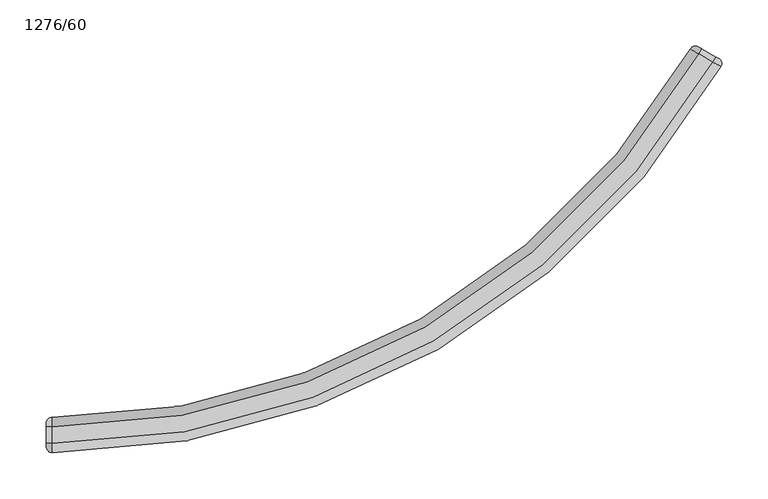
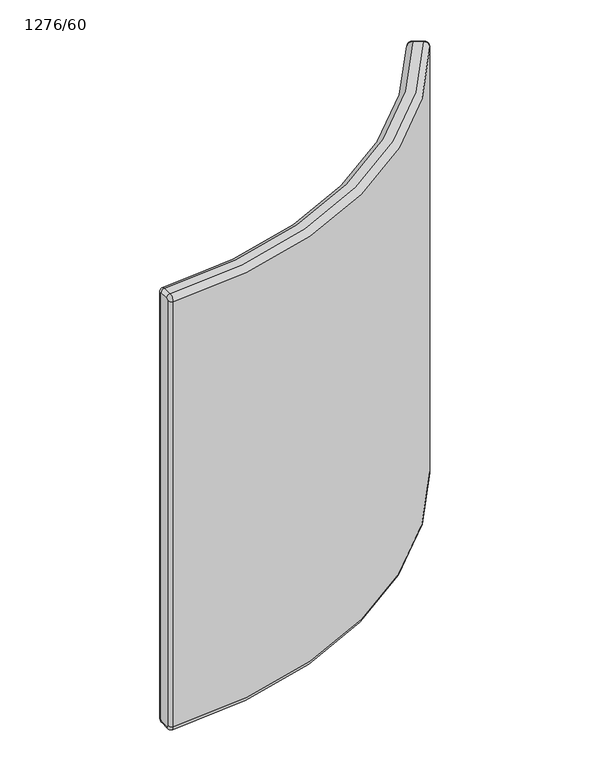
"""IFC4 building model written with IfcOpenShell, lengths in millimetres: furniture geometry, Laguna-Panel-Curve_Outside-ERG : 1276/60."""

from ifc_helpers import new_model, si_unit, point, frame, origin, place, context, project, spatial, polyline, circle_curve, ellipse_curve, trimmed, source, transform, mapped, element, save
from ifc_brep_helpers import plane_surface, cylinder_surface, revolved_surface, advanced_brep


def furniture_1276_60_846af10f(model_context):
    return source(origin(), model_context, "Body", "AdvancedBrep", [
        advanced_brep(
        [(-4700.4237656, 996.8738467, 1056.64), (-3978.083516, 1414.0040527, 1056.64), (-3986.8832502, 1419.0824655, 1066.8), (-4700.4237656, 1007.0338467, 1066.8), (-4700.4237656, 996.8738467, 213.3600166), (-3978.083516, 1414.0040527, 213.36), (-4700.4237656, 1007.0338467, 203.2), (-3986.8832502, 1419.0824655, 203.2), (-4700.4237656, 1024.8138302, 203.2), (-4002.2827853, 1427.9696879, 203.2), (-4700.4237656, 1034.9738467, 213.36), (-4011.0825195, 1433.0481007, 213.36), (-4700.4237656, 1034.9738467, 1056.6399835), (-4011.0825195, 1433.0481007, 1056.64), (-4700.4237656, 1024.8138467, 1066.8), (-4002.2827853, 1427.9696879, 1066.8), (-4706.7737656, 1028.6238467, 213.36), (-4706.7737656, 1024.8138467, 209.55), (-4706.7737656, 1007.0338467, 209.55), (-4706.7737656, 1003.2238467, 213.36), (-4706.7737656, 1003.2238467, 1056.64), (-4706.7737656, 1007.0338467, 1060.45), (-4706.7737656, 1024.8138467, 1060.45), (-4706.7737656, 1028.6238467, 1056.64), (-4002.4086776, 1435.3739266, 1056.64), (-3999.1087773, 1433.4695218, 1060.45), (-3983.7092423, 1424.5822995, 1060.45), (-3980.4093419, 1422.6778947, 1056.64), (-3980.4093419, 1422.6778947, 213.36), (-3983.7092423, 1424.5822995, 209.55), (-3999.1087773, 1433.4695218, 209.55), (-4002.4086776, 1435.3739266, 213.36)],
        [
            (0, 1, circle_curve(frame((-4700.4237656, 1830.8736805, 1056.64), z_axis=(0.0, 0.0, 1.0), x_axis=(0.8661155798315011, -0.49984377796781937, 0.0)), 833.9998338)),
            (1, 2, circle_curve(frame((-3986.8832502, 1419.0824655, 1056.64), z_axis=(-0.49984377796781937, -0.8661155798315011, 0.0), x_axis=(0.8661155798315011, -0.49984377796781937, 0.0)), 10.16)),
            (2, 3, circle_curve(frame((-4700.4237656, 1830.8736805, 1066.8), z_axis=(0.0, 0.0, -1.0), x_axis=(0.8661155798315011, -0.49984377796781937, 0.0)), 823.8398338)),
            (3, 0, circle_curve(frame((-4700.4237656, 1007.0338467, 1056.64), z_axis=(1.0, 0.0, 0.0), x_axis=(0.0, -1.0, 0.0)), 10.16)),
            (0, 4),
            (4, 5, circle_curve(frame((-4700.4237656, 1830.8736805, 213.36), z_axis=(0.0, 0.0, 1.0), x_axis=(0.8661155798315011, -0.49984377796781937, 0.0)), 833.9998338)),
            (5, 1),
            (4, 6, circle_curve(frame((-4700.4237656, 1007.0338467, 213.36), z_axis=(1.0, 0.0, 0.0), x_axis=(0.0, -1.0, 0.0)), 10.16)),
            (6, 7, circle_curve(frame((-4700.4237656, 1830.8736805, 203.2), z_axis=(0.0, 0.0, 1.0), x_axis=(0.8661155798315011, -0.49984377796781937, 0.0)), 823.8398338)),
            (7, 5, circle_curve(frame((-3986.8832502, 1419.0824655, 213.36), z_axis=(-0.49984377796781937, -0.8661155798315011, 0.0), x_axis=(0.8661155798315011, -0.49984377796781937, 0.0)), 10.16)),
            (6, 8),
            (8, 9, circle_curve(frame((-4700.4237656, 1830.8736805, 203.2), z_axis=(0.0, 0.0, 1.0), x_axis=(0.8661155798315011, -0.49984377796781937, 0.0)), 806.0598338)),
            (9, 7),
            (8, 10, circle_curve(frame((-4700.4237656, 1024.8138467, 213.36), z_axis=(1.0, 0.0, 0.0), x_axis=(0.0, -1.0, 0.0)), 10.16)),
            (10, 11, circle_curve(frame((-4700.4237656, 1830.8736805, 213.36), z_axis=(0.0, 0.0, 1.0), x_axis=(0.8661155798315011, -0.49984377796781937, 0.0)), 795.8998338)),
            (11, 9, circle_curve(frame((-4002.2827853, 1427.9696879, 213.36), z_axis=(-0.49984377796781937, -0.8661155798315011, 0.0), x_axis=(0.8661155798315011, -0.49984377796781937, 0.0)), 10.16)),
            (10, 12),
            (12, 13, circle_curve(frame((-4700.4237656, 1830.8736805, 1056.64), z_axis=(0.0, 0.0, 1.0), x_axis=(0.8661155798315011, -0.49984377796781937, 0.0)), 795.8998338)),
            (13, 11),
            (12, 14, circle_curve(frame((-4700.4237656, 1024.8138467, 1056.64), z_axis=(1.0, 0.0, 0.0), x_axis=(0.0, -1.0, 0.0)), 10.16)),
            (14, 15, circle_curve(frame((-4700.4237656, 1830.8736805, 1066.8), z_axis=(0.0, 0.0, 1.0), x_axis=(0.8661155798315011, -0.49984377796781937, 0.0)), 806.0598338)),
            (15, 13, circle_curve(frame((-4002.2827853, 1427.9696879, 1056.64), z_axis=(-0.49984377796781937, -0.8661155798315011, 0.0), x_axis=(0.8661155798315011, -0.49984377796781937, 0.0)), 10.16)),
            (2, 15),
            (14, 3),
            (16, 10, circle_curve(frame((-4700.4237656, 1028.6238467, 213.36), z_axis=(0.0, 0.0, -1.0), x_axis=(-1.0, 0.0, 0.0)), 6.35)),
            (8, 17, circle_curve(frame((-4700.4237656, 1024.8138467, 209.55), z_axis=(0.0, 1.0, 0.0), x_axis=(-1.0, 0.0, 0.0)), 6.35)),
            (17, 16, circle_curve(frame((-4706.7737656, 1024.8138467, 213.36), z_axis=(1.0, 0.0, 0.0), x_axis=(0.0, 1.0, 0.0)), 3.81)),
            (6, 18, circle_curve(frame((-4700.4237656, 1007.0338467, 209.55), z_axis=(0.0, 1.0, 0.0), x_axis=(-1.0, 0.0, 0.0)), 6.35)),
            (18, 17),
            (4, 19, circle_curve(frame((-4700.4237656, 1003.2238467, 213.36), z_axis=(0.0, 0.0, -1.0), x_axis=(-1.0, 0.0, 0.0)), 6.35)),
            (19, 18, circle_curve(frame((-4706.7737656, 1007.0338467, 213.36), z_axis=(1.0, 0.0, 0.0), x_axis=(0.0, 0.0, -1.0)), 3.81)),
            (0, 20, circle_curve(frame((-4700.4237656, 1003.2238467, 1056.64), z_axis=(0.0, 0.0, -1.0), x_axis=(-1.0, 0.0, 0.0)), 6.35)),
            (20, 19),
            (3, 21, circle_curve(frame((-4700.4237656, 1007.0338467, 1060.45), z_axis=(0.0, -1.0, 0.0), x_axis=(-1.0, 0.0, 0.0)), 6.35)),
            (21, 20, circle_curve(frame((-4706.7737656, 1007.0338467, 1056.64), z_axis=(1.0, 0.0, 0.0), x_axis=(0.0, -1.0, 0.0)), 3.81)),
            (14, 22, circle_curve(frame((-4700.4237656, 1024.8138467, 1060.45), z_axis=(0.0, -1.0, 0.0), x_axis=(-1.0, 0.0, 0.0)), 6.35)),
            (22, 21),
            (12, 23, circle_curve(frame((-4700.4237656, 1028.6238467, 1056.64), z_axis=(0.0, 0.0, 1.0), x_axis=(-1.0, 0.0, 0.0)), 6.35)),
            (23, 22, circle_curve(frame((-4706.7737656, 1024.8138467, 1056.64), z_axis=(1.0, 0.0, 0.0), x_axis=(0.0, 0.0, 1.0)), 3.81)),
            (16, 23),
            (24, 13, circle_curve(frame((-4005.5826856, 1429.8740927, 1056.64), z_axis=(0.0, 0.0, 1.0), x_axis=(0.8661155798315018, -0.49984377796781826, 0.0)), 6.35)),
            (15, 25, circle_curve(frame((-4002.2827853, 1427.9696879, 1060.45), z_axis=(-0.8661155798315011, 0.4998437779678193, 0.0), x_axis=(0.0, 0.0, -1.0)), 6.35)),
            (25, 24, circle_curve(frame((-3999.1087773, 1433.4695218, 1056.64), z_axis=(-0.49984377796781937, -0.8661155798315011, 0.0), x_axis=(-0.8661155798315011, 0.49984377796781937, 0.0)), 3.81)),
            (2, 26, circle_curve(frame((-3986.8832502, 1419.0824655, 1060.45), z_axis=(-0.8661155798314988, 0.4998437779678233, 0.0), x_axis=(0.0, 0.0, -1.0)), 6.35)),
            (26, 25),
            (1, 27, circle_curve(frame((-3983.5833499, 1417.1780607, 1056.64), z_axis=(0.0, 0.0, 1.0), x_axis=(-0.8661155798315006, 0.4998437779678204, 0.0)), 6.35)),
            (27, 26, circle_curve(frame((-3983.7092423, 1424.5822995, 1056.64), z_axis=(-0.49984377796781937, -0.8661155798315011, 0.0), x_axis=(0.0, 0.0, 1.0)), 3.81)),
            (5, 28, circle_curve(frame((-3983.5833499, 1417.1780607, 213.36), z_axis=(0.0, 0.0, 1.0), x_axis=(-0.8661155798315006, 0.4998437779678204, 0.0)), 6.35)),
            (28, 27),
            (7, 29, circle_curve(frame((-3986.8832502, 1419.0824655, 209.55), z_axis=(0.8661155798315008, -0.4998437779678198, 0.0), x_axis=(0.0, 0.0, 1.0)), 6.35)),
            (29, 28, circle_curve(frame((-3983.7092423, 1424.5822995, 213.36), z_axis=(-0.49984377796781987, -0.8661155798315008, 0.0), x_axis=(0.8661155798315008, -0.49984377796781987, 0.0)), 3.81)),
            (9, 30, circle_curve(frame((-4002.2827853, 1427.9696879, 209.55), z_axis=(0.8661155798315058, -0.4998437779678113, 0.0), x_axis=(0.0, 0.0, 1.0)), 6.35)),
            (30, 29),
            (11, 31, circle_curve(frame((-4005.5826856, 1429.8740927, 213.36), z_axis=(0.0, 0.0, -1.0), x_axis=(0.8661155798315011, -0.49984377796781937, 0.0)), 6.35)),
            (31, 30, circle_curve(frame((-3999.1087773, 1433.4695218, 213.36), z_axis=(-0.49984377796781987, -0.8661155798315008, 0.0), x_axis=(0.0, 0.0, -1.0)), 3.81)),
            (24, 31),
        ],
        [
            revolved_surface(trimmed(ellipse_curve(frame((-3986.8832502, 1419.0824655, 1056.64), z_axis=(0.49984377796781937, 0.8661155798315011, 0.0), x_axis=(0.8661155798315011, -0.49984377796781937, 0.0)), 10.16, 10.16), [point((-3986.8832502, 1419.0824655, 1066.8))], [point((-3978.083516, 1414.0040527, 1056.64))], True, "CARTESIAN"), (-4700.4237656, 1830.8736805, 0.0), (0.0, 0.0, -1.0)),
            cylinder_surface(frame((-4700.4237656, 1830.8736805, 0.0), z_axis=(0.0, 0.0, -1.0), x_axis=(0.8661155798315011, -0.49984377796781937, 0.0)), 833.9998338),
            revolved_surface(trimmed(ellipse_curve(frame((-3986.8832502, 1419.0824655, 213.36), z_axis=(0.49984377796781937, 0.8661155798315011, 0.0), x_axis=(0.8661155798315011, -0.49984377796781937, 0.0)), 10.16, 10.16), [point((-3978.083516, 1414.0040527, 213.36))], [point((-3986.8832502, 1419.0824655, 203.2))], True, "CARTESIAN"), (-4700.4237656, 1830.8736805, 0.0), (0.0, 0.0, -1.0)),
            plane_surface(frame((-4700.4237656, 1830.8736805, 203.2), z_axis=(0.0, 0.0, -1.0), x_axis=(0.8661155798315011, -0.49984377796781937, 0.0))),
            revolved_surface(trimmed(ellipse_curve(frame((-4002.2827853, 1427.9696879, 213.36), z_axis=(0.49984377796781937, 0.8661155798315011, 0.0), x_axis=(0.8661155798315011, -0.49984377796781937, 0.0)), 10.16, 10.16), [point((-4002.2827853, 1427.9696879, 203.2))], [point((-4011.0825195, 1433.0481007, 213.36))], True, "CARTESIAN"), (-4700.4237656, 1830.8736805, 0.0), (0.0, 0.0, -1.0)),
            revolved_surface(polyline([(-4011.082519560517, 1433.0481006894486, 213.36), (-4011.082519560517, 1433.0481006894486, 1056.64)]), (-4700.4237656, 1830.8736805, 0.0), (0.0, 0.0, -1.0)),
            revolved_surface(trimmed(ellipse_curve(frame((-4002.2827853, 1427.9696879, 1056.64), z_axis=(0.49984377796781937, 0.8661155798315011, 0.0), x_axis=(0.8661155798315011, -0.49984377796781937, 0.0)), 10.16, 10.16), [point((-4011.0825195, 1433.0481007, 1056.64))], [point((-4002.2827853, 1427.9696879, 1066.8))], True, "CARTESIAN"), (-4700.4237656, 1830.8736805, 0.0), (0.0, 0.0, -1.0)),
            plane_surface(frame((-4700.4237656, 1830.8736805, 1066.8), z_axis=(0.0, 0.0, 1.0), x_axis=(0.8661155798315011, -0.49984377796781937, 0.0))),
            revolved_surface(trimmed(ellipse_curve(frame((-4700.4237656, 1028.6238467, 213.36), z_axis=(0.0, 0.0, 1.0), x_axis=(-1.0, 0.0, 0.0)), 6.35, 6.35), [point((-4700.4237656, 1034.9738467, 213.36))], [point((-4706.7737656, 1028.6238467, 213.36))], True, "CARTESIAN"), (-4700.4237656, 1024.8138467, 213.36), (-1.0, 0.0, 0.0)),
            cylinder_surface(frame((-4700.4237656, 1024.8138467, 209.55), z_axis=(0.0, 1.0, 0.0), x_axis=(-1.0, 0.0, 0.0)), 6.35),
            revolved_surface(trimmed(ellipse_curve(frame((-4700.4237656, 1007.0338467, 209.55), z_axis=(0.0, 1.0, 0.0), x_axis=(-1.0, 0.0, 0.0)), 6.35, 6.35), [point((-4700.4237656, 1007.0338467, 203.2))], [point((-4706.7737656, 1007.0338467, 209.55))], True, "CARTESIAN"), (-4700.4237656, 1007.0338467, 213.36), (-1.0, 0.0, 0.0)),
            cylinder_surface(frame((-4700.4237656, 1003.2238467, 213.36), z_axis=(0.0, 0.0, -1.0), x_axis=(-1.0, 0.0, 0.0)), 6.35),
            revolved_surface(trimmed(ellipse_curve(frame((-4700.4237656, 1003.2238467, 1056.64), z_axis=(0.0, 0.0, -1.0), x_axis=(-1.0, 0.0, 0.0)), 6.35, 6.35), [point((-4700.4237656, 996.8738467, 1056.64))], [point((-4706.7737656, 1003.2238467, 1056.64))], True, "CARTESIAN"), (-4700.4237656, 1007.0338467, 1056.64), (-1.0, 0.0, 0.0)),
            cylinder_surface(frame((-4700.4237656, 1007.0338467, 1060.45), z_axis=(0.0, -1.0, 0.0), x_axis=(-1.0, 0.0, 0.0)), 6.35),
            revolved_surface(trimmed(ellipse_curve(frame((-4700.4237656, 1024.8138467, 1060.45), z_axis=(0.0, -1.0, 0.0), x_axis=(-1.0, 0.0, 0.0)), 6.35, 6.35), [point((-4700.4237656, 1024.8138467, 1066.8))], [point((-4706.7737656, 1024.8138467, 1060.45))], True, "CARTESIAN"), (-4700.4237656, 1024.8138467, 1056.64), (-1.0, 0.0, 0.0)),
            cylinder_surface(frame((-4700.4237656, 1028.6238467, 1056.64), z_axis=(0.0, 0.0, 1.0), x_axis=(-1.0, 0.0, 0.0)), 6.35),
            plane_surface(frame((-4706.7737656, 1028.6238467, 213.36), z_axis=(-1.0, 0.0, 0.0), x_axis=(0.0, 0.0, -1.0))),
            revolved_surface(trimmed(ellipse_curve(frame((-4005.5826856, 1429.8740927, 1056.64), z_axis=(0.0, 0.0, -1.0), x_axis=(0.8661155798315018, -0.49984377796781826, 0.0)), 6.35, 6.35), [point((-4011.0825195, 1433.0481007, 1056.64))], [point((-4002.4086776, 1435.3739266, 1056.64))], True, "CARTESIAN"), (-4002.2827853, 1427.9696879, 1056.64), (0.49984377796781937, 0.8661155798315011, 0.0)),
            cylinder_surface(frame((-4002.2827853, 1427.9696879, 1060.45), z_axis=(-0.8661155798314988, 0.4998437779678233, 0.0), x_axis=(0.0, 0.0, -1.0)), 6.35),
            revolved_surface(trimmed(ellipse_curve(frame((-3986.8832502, 1419.0824655, 1060.45), z_axis=(-0.8661155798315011, 0.4998437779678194, 0.0), x_axis=(0.0, 0.0, -1.0)), 6.35, 6.35), [point((-3986.8832502, 1419.0824655, 1066.8))], [point((-3983.7092423, 1424.5822995, 1060.45))], True, "CARTESIAN"), (-3986.8832502, 1419.0824655, 1056.64), (0.49984377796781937, 0.8661155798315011, 0.0)),
            cylinder_surface(frame((-3983.5833499, 1417.1780607, 1056.64), z_axis=(0.0, 0.0, 1.0), x_axis=(-0.8661155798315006, 0.4998437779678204, 0.0)), 6.35),
            revolved_surface(trimmed(ellipse_curve(frame((-3983.5833499, 1417.1780607, 213.36), z_axis=(0.0, 0.0, 1.0), x_axis=(-0.8661155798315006, 0.4998437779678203, 0.0)), 6.35, 6.35), [point((-3978.083516, 1414.0040527, 213.36))], [point((-3980.4093419, 1422.6778947, 213.36))], True, "CARTESIAN"), (-3986.8832502, 1419.0824655, 213.36), (0.49984377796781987, 0.8661155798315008, 0.0)),
            cylinder_surface(frame((-3986.8832502, 1419.0824655, 209.55), z_axis=(0.8661155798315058, -0.4998437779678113, 0.0), x_axis=(0.0, 0.0, 1.0)), 6.35),
            revolved_surface(trimmed(ellipse_curve(frame((-4002.2827853, 1427.9696879, 209.55), z_axis=(0.8661155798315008, -0.4998437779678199, 0.0), x_axis=(0.0, 0.0, 1.0)), 6.35, 6.35), [point((-4002.2827853, 1427.9696879, 203.2))], [point((-3999.1087773, 1433.4695218, 209.55))], True, "CARTESIAN"), (-4002.2827853, 1427.9696879, 213.36), (0.49984377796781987, 0.8661155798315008, 0.0)),
            cylinder_surface(frame((-4005.5826856, 1429.8740927, 213.36), z_axis=(0.0, 0.0, -1.0000000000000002), x_axis=(0.8661155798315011, -0.49984377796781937, 0.0)), 6.35),
            plane_surface(frame((-3980.4093419, 1422.6778947, 213.36), z_axis=(0.49984377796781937, 0.8661155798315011, 0.0), x_axis=(0.0, 0.0, -1.0))),
        ],
        [
            (0, [[1, 2, 3, 4]]),
            (1, [[-1, 5, 6, 7]]),
            (2, [[-6, 8, 9, 10]]),
            (3, [[-9, 11, 12, 13]]),
            (4, [[-12, 14, 15, 16]]),
            (5, [[-15, 17, 18, 19]]),
            (6, [[-18, 20, 21, 22]]),
            (7, [[-3, 23, -21, 24]]),
            (8, [[25, -14, 26, 27]]),
            (9, [[-26, -11, 28, 29]]),
            (10, [[-28, -8, 30, 31]]),
            (11, [[-30, -5, 32, 33]]),
            (12, [[-32, -4, 34, 35]]),
            (13, [[-34, -24, 36, 37]]),
            (14, [[-36, -20, 38, 39]]),
            (15, [[-25, 40, -38, -17]]),
            (16, [[-27, -29, -31, -33, -35, -37, -39, -40]]),
            (17, [[41, -22, 42, 43]]),
            (18, [[-42, -23, 44, 45]]),
            (19, [[-44, -2, 46, 47]]),
            (20, [[-46, -7, 48, 49]]),
            (21, [[-48, -10, 50, 51]]),
            (22, [[-50, -13, 52, 53]]),
            (23, [[-52, -16, 54, 55]]),
            (24, [[-41, 56, -54, -19]]),
            (25, [[-43, -45, -47, -49, -51, -53, -55, -56]]),
        ],
    ),
    ])


if __name__ == "__main__":
    model = new_model("IFC4")
    model_context = context("Model", 3, world=origin())
    ifc_project = project(units=[si_unit("LENGTHUNIT", "METRE", prefix="MILLI")], contexts=[model_context])
    site = spatial("IfcSite", under=ifc_project)
    building = spatial("IfcBuilding", under=site)
    placement = place(None, origin())
    furniture_1276_60_shape = furniture_1276_60_846af10f(model_context)
    element("IfcFurniture", 1, ObjectType="Laguna-Panel-Curve_Outside-ERG : 1276/60", at=placement, inside=building, context=model_context, shape_type="MappedRepresentation", body=[
        mapped(furniture_1276_60_shape, transform((0.0, 0.0, 0.0), x_axis=(1.0, 0.0, 0.0), y_axis=(0.0, 1.0, 0.0), z_axis=(0.0, 0.0, 1.0))),
    ])
    save(model, "model.ifc")
